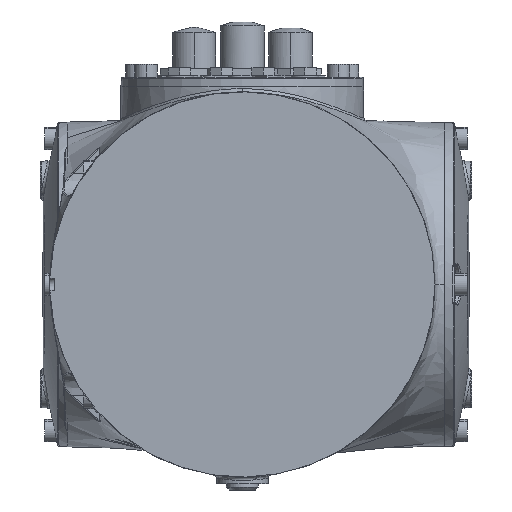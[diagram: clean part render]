
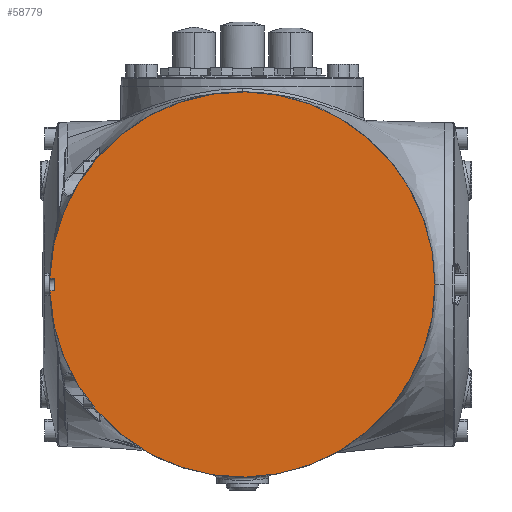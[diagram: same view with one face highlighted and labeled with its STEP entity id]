
A CAD part, left-side view. The second image highlights one B-rep face of the part: STEP entity #58779.
In plain terms, the highlighted planar face has unit normal (-1, 0, 0).
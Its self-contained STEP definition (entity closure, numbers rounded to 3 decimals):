
#925 = EDGE_LOOP ( 'NONE', ( #47679, #14089, #66784, #20031, #31854 ) ) ;
#3642 = CARTESIAN_POINT ( 'NONE',  ( 279.5, 58.5, 1157. ) ) ;
#3991 = CARTESIAN_POINT ( 'NONE',  ( 279.5, -47.5, 1159. ) ) ;
#4350 = PLANE ( 'NONE',  #30986 ) ;
#4397 = CARTESIAN_POINT ( 'NONE',  ( 279.5, 0., 1159. ) ) ;
#5604 = DIRECTION ( 'NONE',  ( 0., 1., 0. ) ) ;
#7376 = CARTESIAN_POINT ( 'NONE',  ( 279.5, 58.5, 1161. ) ) ;
#7606 = LINE ( 'NONE', #29574, #45714 ) ;
#10571 = VECTOR ( 'NONE', #66972, 1000. ) ;
#14089 = ORIENTED_EDGE ( 'NONE', *, *, #20024, .F. ) ;
#15510 = CARTESIAN_POINT ( 'NONE',  ( 279.5, 59.967, 1157. ) ) ;
#16149 = EDGE_CURVE ( 'NONE', #66600, #29314, #20331, .T. ) ;
#17694 = LINE ( 'NONE', #50006, #10571 ) ;
#18064 = AXIS2_PLACEMENT_3D ( 'NONE', #51397, #28777, #62235 ) ;
#19842 = VERTEX_POINT ( 'NONE', #15510 ) ;
#20024 = EDGE_CURVE ( 'NONE', #29314, #19842, #51290, .T. ) ;
#20031 = ORIENTED_EDGE ( 'NONE', *, *, #39664, .T. ) ;
#20331 = CIRCLE ( 'NONE', #47777, 60. ) ;
#22069 = EDGE_CURVE ( 'NONE', #48736, #19842, #70461, .T. ) ;
#25989 = DIRECTION ( 'NONE',  ( -1., 0., 0. ) ) ;
#27699 = EDGE_CURVE ( 'NONE', #52642, #48736, #17694, .T. ) ;
#28033 = DIRECTION ( 'NONE',  ( 0., -1., 0. ) ) ;
#28777 = DIRECTION ( 'NONE',  ( 1., 0., 0. ) ) ;
#29314 = VERTEX_POINT ( 'NONE', #68765 ) ;
#29574 = CARTESIAN_POINT ( 'NONE',  ( 279.5, -47.5, 1161. ) ) ;
#30986 = AXIS2_PLACEMENT_3D ( 'NONE', #3991, #25989, #28033 ) ;
#31854 = ORIENTED_EDGE ( 'NONE', *, *, #27699, .T. ) ;
#39664 = EDGE_CURVE ( 'NONE', #66600, #52642, #7606, .T. ) ;
#41905 = CARTESIAN_POINT ( 'NONE',  ( 279.5, 59.967, 1161. ) ) ;
#45714 = VECTOR ( 'NONE', #51507, 1000. ) ;
#47679 = ORIENTED_EDGE ( 'NONE', *, *, #22069, .T. ) ;
#47777 = AXIS2_PLACEMENT_3D ( 'NONE', #4397, #58429, #48301 ) ;
#48301 = DIRECTION ( 'NONE',  ( 0., -1., 0. ) ) ;
#48736 = VERTEX_POINT ( 'NONE', #3642 ) ;
#50006 = CARTESIAN_POINT ( 'NONE',  ( 279.5, 58.5, 1159. ) ) ;
#50207 = VECTOR ( 'NONE', #5604, 1000. ) ;
#51290 = CIRCLE ( 'NONE', #18064, 60. ) ;
#51397 = CARTESIAN_POINT ( 'NONE',  ( 279.5, 0., 1159. ) ) ;
#51507 = DIRECTION ( 'NONE',  ( 0., -1., 0. ) ) ;
#52642 = VERTEX_POINT ( 'NONE', #7376 ) ;
#53315 = FACE_OUTER_BOUND ( 'NONE', #925, .T. ) ;
#58429 = DIRECTION ( 'NONE',  ( 1., 0., 0. ) ) ;
#58779 = ADVANCED_FACE ( 'NONE', ( #53315 ), #4350, .T. ) ;
#62235 = DIRECTION ( 'NONE',  ( 0., -1., 0. ) ) ;
#65047 = CARTESIAN_POINT ( 'NONE',  ( 279.5, -47.5, 1157. ) ) ;
#66600 = VERTEX_POINT ( 'NONE', #41905 ) ;
#66784 = ORIENTED_EDGE ( 'NONE', *, *, #16149, .F. ) ;
#66972 = DIRECTION ( 'NONE',  ( 0., 0., -1. ) ) ;
#68765 = CARTESIAN_POINT ( 'NONE',  ( 279.5, -60., 1159. ) ) ;
#70461 = LINE ( 'NONE', #65047, #50207 ) ;
